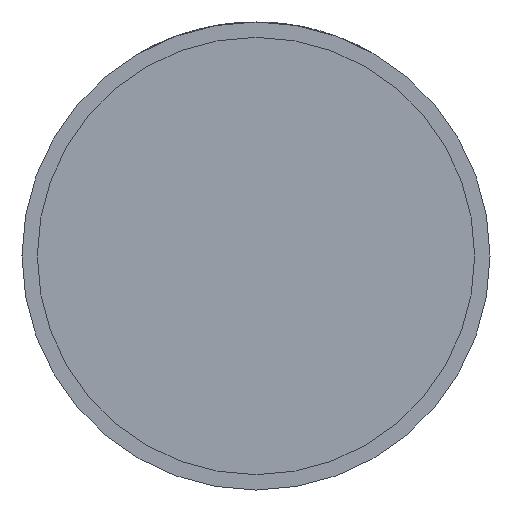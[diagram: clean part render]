
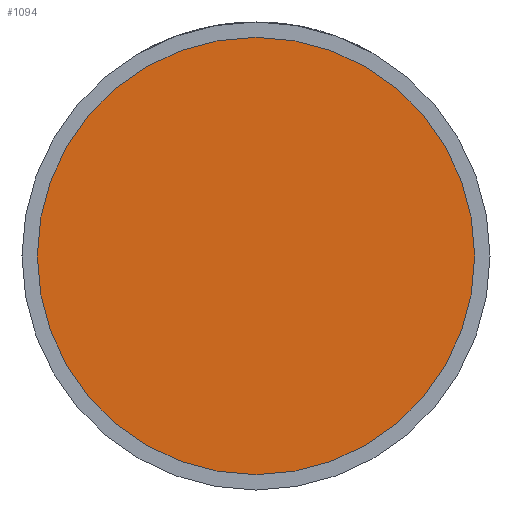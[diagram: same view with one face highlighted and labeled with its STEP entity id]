
A CAD part, front view. The second image highlights one B-rep face of the part: STEP entity #1094.
In plain terms, the highlighted planar face has unit normal (0, -1, 0).
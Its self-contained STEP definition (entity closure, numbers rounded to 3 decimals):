
#14 = AXIS2_PLACEMENT_3D ( 'NONE', #2189, #2849, #526 ) ;
#526 = DIRECTION ( 'NONE',  ( 1., 0., 0. ) ) ;
#585 = VERTEX_POINT ( 'NONE', #1142 ) ;
#732 = VERTEX_POINT ( 'NONE', #3047 ) ;
#912 = AXIS2_PLACEMENT_3D ( 'NONE', #1019, #3657, #2696 ) ;
#1019 = CARTESIAN_POINT ( 'NONE',  ( 0., -17.5, 0. ) ) ;
#1094 = ADVANCED_FACE ( 'NONE', ( #1220 ), #3562, .T. ) ;
#1142 = CARTESIAN_POINT ( 'NONE',  ( -28.5, -17.5, 0. ) ) ;
#1220 = FACE_OUTER_BOUND ( 'NONE', #1661, .T. ) ;
#1661 = EDGE_LOOP ( 'NONE', ( #2370, #3926 ) ) ;
#1939 = CIRCLE ( 'NONE', #912, 28.5 ) ;
#2189 = CARTESIAN_POINT ( 'NONE',  ( 0., -17.5, 0. ) ) ;
#2370 = ORIENTED_EDGE ( 'NONE', *, *, #3654, .T. ) ;
#2696 = DIRECTION ( 'NONE',  ( 1., 0., 0. ) ) ;
#2849 = DIRECTION ( 'NONE',  ( 0., -1., 0. ) ) ;
#3047 = CARTESIAN_POINT ( 'NONE',  ( 28.5, -17.5, 0. ) ) ;
#3239 = CARTESIAN_POINT ( 'NONE',  ( 28.5, -17.5, 0. ) ) ;
#3562 = PLANE ( 'NONE',  #3643 ) ;
#3614 = CIRCLE ( 'NONE', #14, 28.5 ) ;
#3643 = AXIS2_PLACEMENT_3D ( 'NONE', #3239, #3833, #3809 ) ;
#3654 = EDGE_CURVE ( 'NONE', #732, #585, #1939, .T. ) ;
#3657 = DIRECTION ( 'NONE',  ( 0., -1., 0. ) ) ;
#3787 = EDGE_CURVE ( 'NONE', #585, #732, #3614, .T. ) ;
#3809 = DIRECTION ( 'NONE',  ( 1., 0., 0. ) ) ;
#3833 = DIRECTION ( 'NONE',  ( 0., -1., 0. ) ) ;
#3926 = ORIENTED_EDGE ( 'NONE', *, *, #3787, .T. ) ;
